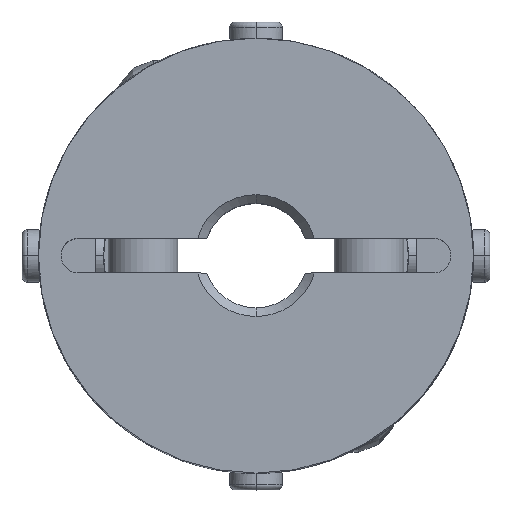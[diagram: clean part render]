
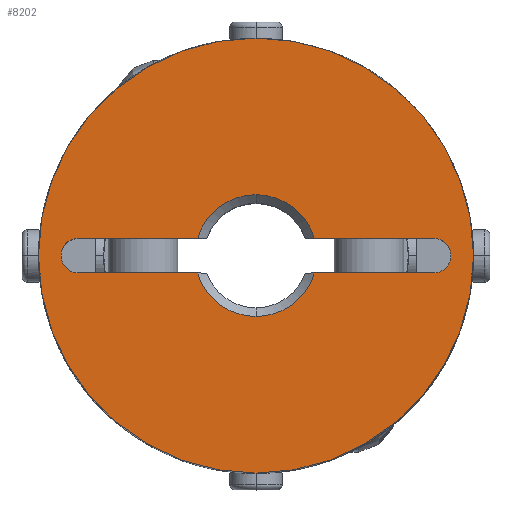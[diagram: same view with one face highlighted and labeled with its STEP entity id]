
A CAD part, top view. The second image highlights one B-rep face of the part: STEP entity #8202.
In plain terms, the highlighted planar face has unit normal (0, 0, 1).
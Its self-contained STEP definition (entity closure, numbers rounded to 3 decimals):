
#885=CARTESIAN_POINT('',(0.,12.5,13.5));
#886=VERTEX_POINT('',#885);
#893=CARTESIAN_POINT('',(0.,-12.5,13.5));
#894=VERTEX_POINT('',#893);
#895=CARTESIAN_POINT('',(0.,0.0,13.5));
#896=DIRECTION('',(0.0,0.0,-1.0));
#897=DIRECTION('',(0.0,-1.0,0.0));
#898=AXIS2_PLACEMENT_3D('',#895,#896,#897);
#899=CIRCLE('',#898,12.5);
#900=EDGE_CURVE('',#886,#894,#899,.T.);
#1153=CARTESIAN_POINT('',(10.907,0.707,13.5));
#1154=VERTEX_POINT('',#1153);
#1170=CARTESIAN_POINT('',(10.2,-1.,13.5));
#1171=VERTEX_POINT('',#1170);
#1178=CARTESIAN_POINT('',(10.2,0.,13.5));
#1179=DIRECTION('',(0.0,0.0,1.0));
#1180=DIRECTION('',(0.707,-0.707,0.0));
#1181=AXIS2_PLACEMENT_3D('',#1178,#1179,#1180);
#1182=CIRCLE('',#1181,1.0);
#1183=EDGE_CURVE('',#1171,#1154,#1182,.T.);
#1195=CARTESIAN_POINT('',(-10.907,-0.707,13.5));
#1196=VERTEX_POINT('',#1195);
#1212=CARTESIAN_POINT('',(-10.2,1.,13.5));
#1213=VERTEX_POINT('',#1212);
#1220=CARTESIAN_POINT('',(-10.2,0.,13.5));
#1221=DIRECTION('',(0.0,0.0,1.0));
#1222=DIRECTION('',(-0.707,0.707,0.0));
#1223=AXIS2_PLACEMENT_3D('',#1220,#1221,#1222);
#1224=CIRCLE('',#1223,1.0);
#1225=EDGE_CURVE('',#1213,#1196,#1224,.T.);
#1235=CARTESIAN_POINT('',(0.,3.5,13.5));
#1236=VERTEX_POINT('',#1235);
#1244=CARTESIAN_POINT('',(3.354,1.,13.5));
#1245=VERTEX_POINT('',#1244);
#1259=CARTESIAN_POINT('',(0.,0.0,13.5));
#1260=DIRECTION('',(0.0,0.0,1.0));
#1261=DIRECTION('',(0.0,1.0,0.0));
#1262=AXIS2_PLACEMENT_3D('',#1259,#1260,#1261);
#1263=CIRCLE('',#1262,3.5);
#1264=EDGE_CURVE('',#1245,#1236,#1263,.T.);
#1276=CARTESIAN_POINT('',(0.,-3.5,13.5));
#1277=VERTEX_POINT('',#1276);
#1293=CARTESIAN_POINT('',(-3.354,-1.,13.5));
#1294=VERTEX_POINT('',#1293);
#1308=CARTESIAN_POINT('',(0.,0.0,13.5));
#1309=DIRECTION('',(0.0,0.0,1.0));
#1310=DIRECTION('',(0.0,-1.0,0.0));
#1311=AXIS2_PLACEMENT_3D('',#1308,#1309,#1310);
#1312=CIRCLE('',#1311,3.5);
#1313=EDGE_CURVE('',#1294,#1277,#1312,.T.);
#7994=CARTESIAN_POINT('',(-10.2,-1.,13.5));
#7995=VERTEX_POINT('',#7994);
#8002=CARTESIAN_POINT('',(-3.354,-1.,13.5));
#8003=DIRECTION('',(-1.0,0.0,0.0));
#8004=VECTOR('',#8003,6.846);
#8005=LINE('',#8002,#8004);
#8006=EDGE_CURVE('',#1294,#7995,#8005,.T.);
#8063=CARTESIAN_POINT('',(-3.354,1.,13.5));
#8064=VERTEX_POINT('',#8063);
#8078=CARTESIAN_POINT('',(-10.2,1.,13.5));
#8079=DIRECTION('',(1.0,0.0,0.0));
#8080=VECTOR('',#8079,6.846);
#8081=LINE('',#8078,#8080);
#8082=EDGE_CURVE('',#1213,#8064,#8081,.T.);
#8099=CARTESIAN_POINT('',(3.354,-1.,13.5));
#8100=VERTEX_POINT('',#8099);
#8101=CARTESIAN_POINT('',(0.,0.0,13.5));
#8102=DIRECTION('',(0.0,0.0,1.0));
#8103=DIRECTION('',(0.0,-1.0,0.0));
#8104=AXIS2_PLACEMENT_3D('',#8101,#8102,#8103);
#8105=CIRCLE('',#8104,3.5);
#8106=EDGE_CURVE('',#1277,#8100,#8105,.T.);
#8133=CARTESIAN_POINT('',(10.2,-1.,13.5));
#8134=DIRECTION('',(-1.0,0.0,0.0));
#8135=VECTOR('',#8134,6.846);
#8136=LINE('',#8133,#8135);
#8137=EDGE_CURVE('',#1171,#8100,#8136,.T.);
#8148=CARTESIAN_POINT('',(0.,-1.136,13.5));
#8149=DIRECTION('',(0.0,0.0,1.0));
#8150=DIRECTION('',(0.0,-1.0,0.0));
#8151=AXIS2_PLACEMENT_3D('',#8148,#8149,#8150);
#8152=PLANE('',#8151);
#8153=CARTESIAN_POINT('',(0.,0.0,13.5));
#8154=DIRECTION('',(0.0,0.0,-1.0));
#8155=DIRECTION('',(0.0,-1.0,0.0));
#8156=AXIS2_PLACEMENT_3D('',#8153,#8154,#8155);
#8157=CIRCLE('',#8156,12.5);
#8158=EDGE_CURVE('',#894,#886,#8157,.T.);
#8159=ORIENTED_EDGE('',*,*,#8158,.F.);
#8160=ORIENTED_EDGE('',*,*,#900,.F.);
#8161=EDGE_LOOP('',(#8159,#8160));
#8162=FACE_OUTER_BOUND('',#8161,.T.);
#8163=ORIENTED_EDGE('',*,*,#1313,.F.);
#8164=ORIENTED_EDGE('',*,*,#8006,.T.);
#8165=CARTESIAN_POINT('',(-10.2,0.,13.5));
#8166=DIRECTION('',(0.0,0.0,1.0));
#8167=DIRECTION('',(-0.707,0.707,0.0));
#8168=AXIS2_PLACEMENT_3D('',#8165,#8166,#8167);
#8169=CIRCLE('',#8168,1.0);
#8170=EDGE_CURVE('',#1196,#7995,#8169,.T.);
#8171=ORIENTED_EDGE('',*,*,#8170,.F.);
#8172=ORIENTED_EDGE('',*,*,#1225,.F.);
#8173=ORIENTED_EDGE('',*,*,#8082,.T.);
#8174=CARTESIAN_POINT('',(0.,0.0,13.5));
#8175=DIRECTION('',(0.0,0.0,1.0));
#8176=DIRECTION('',(0.0,1.0,0.0));
#8177=AXIS2_PLACEMENT_3D('',#8174,#8175,#8176);
#8178=CIRCLE('',#8177,3.5);
#8179=EDGE_CURVE('',#1236,#8064,#8178,.T.);
#8180=ORIENTED_EDGE('',*,*,#8179,.F.);
#8181=ORIENTED_EDGE('',*,*,#1264,.F.);
#8182=CARTESIAN_POINT('',(10.2,1.,13.5));
#8183=VERTEX_POINT('',#8182);
#8184=CARTESIAN_POINT('',(3.354,1.,13.5));
#8185=DIRECTION('',(1.0,0.0,0.0));
#8186=VECTOR('',#8185,6.846);
#8187=LINE('',#8184,#8186);
#8188=EDGE_CURVE('',#1245,#8183,#8187,.T.);
#8189=ORIENTED_EDGE('',*,*,#8188,.T.);
#8190=CARTESIAN_POINT('',(10.2,0.,13.5));
#8191=DIRECTION('',(0.0,0.0,1.0));
#8192=DIRECTION('',(0.707,-0.707,0.0));
#8193=AXIS2_PLACEMENT_3D('',#8190,#8191,#8192);
#8194=CIRCLE('',#8193,1.0);
#8195=EDGE_CURVE('',#1154,#8183,#8194,.T.);
#8196=ORIENTED_EDGE('',*,*,#8195,.F.);
#8197=ORIENTED_EDGE('',*,*,#1183,.F.);
#8198=ORIENTED_EDGE('',*,*,#8137,.T.);
#8199=ORIENTED_EDGE('',*,*,#8106,.F.);
#8200=EDGE_LOOP('',(#8163,#8164,#8171,#8172,#8173,#8180,#8181,#8189,#8196,#8197,#8198,#8199));
#8201=FACE_BOUND('',#8200,.T.);
#8202=ADVANCED_FACE('',(#8162,#8201),#8152,.T.);
